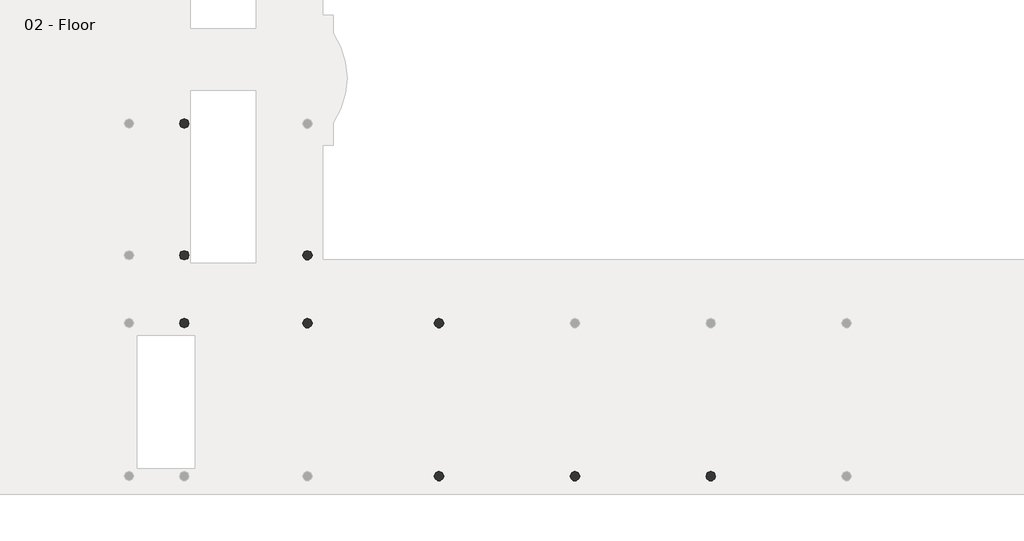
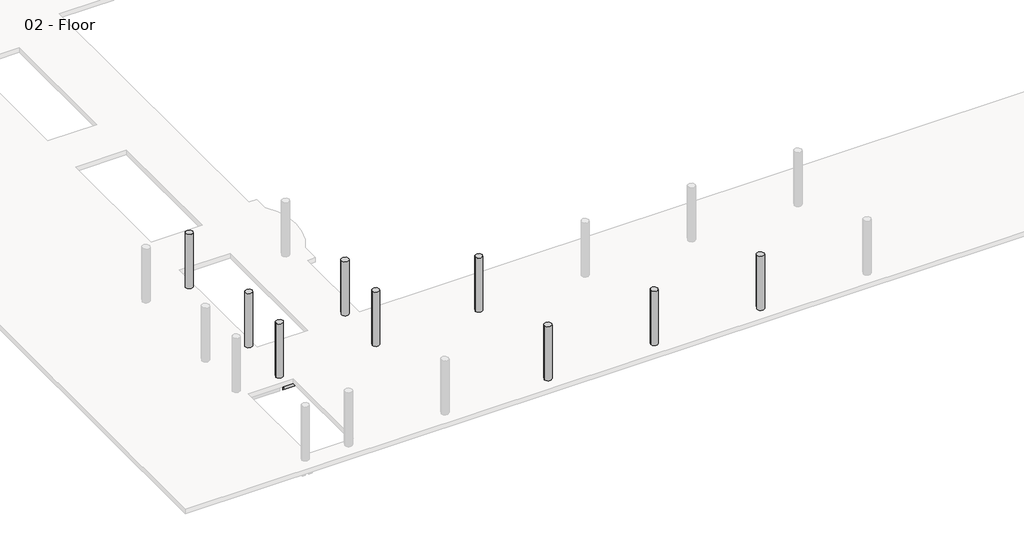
# One storey, part 3 of 9: 12 beams, 9 columns.
"""IFC4 building model written with IfcOpenShell, lengths in millimetres."""

from ifc_helpers import new_model, si_unit, point, frame, frame_2d, origin, place, context, project, spatial, polyline, circle_curve, trimmed, segment, composite_curve, outline, extrude, element, save
from ifc_brep_helpers import plane_surface, revolved_surface, advanced_brep

model = new_model("IFC4")

# Units and contexts
model_context = context("Model", 3, world=origin())
ifc_project = project(units=[si_unit("LENGTHUNIT", "METRE", prefix="MILLI")], contexts=[model_context])

# Site, building, storey
site = spatial("IfcSite", under=ifc_project)
building = spatial("IfcBuilding", under=site)
storey = spatial("IfcBuildingStorey", under=building, Name="02 - Floor", Elevation=3800.0)

# Beams
placement = place(None, origin())
element("IfcBeam", 1, ObjectType="M_Concrete-Rectangular Beam : 300 x 600mm", at=placement, inside=storey, context=model_context, shape_type="SweptSolid", body=[
    extrude(outline(composite_curve([segment(polyline([(12796.8005584, -12296.3611817), (13096.8005584, -12296.3611817), (13096.8005584, -15119.8613801), (13049.878199, -15119.8613801)]), True, "CONTINUOUS"), segment(trimmed(circle_curve(frame_2d((12946.8005584, -15319.8613801)), 225.0), [point((13049.878199, -15119.8613801))], [point((12843.7229178, -15119.8613801))], True, "CARTESIAN"), True, "CONTINUOUS"), segment(polyline([(12843.7229178, -15119.8613801), (12796.8005584, -15119.8613801), (12796.8005584, -12296.3611817)]), True, "CONTINUOUS")], self_intersect=False)), frame((0.0, 0.0, 3200.0), z_axis=(0.0, 0.0, 1.0), x_axis=(1.0, 0.0, 0.0)), (0.0, 0.0, 1.0), 300.0),
])
element("IfcBeam", 2, ObjectType="M_Concrete-Rectangular Beam : 400 x 800mm", at=placement, inside=storey, context=model_context, shape_type="AdvancedBrep", body=[
    advanced_brep(
    [(554.8005584, -11965.5837394, 3000.0), (554.8005584, -11965.5837394, 3500.0), (554.8005584, -11868.6613801, 3500.0), (554.8005584, -5969.4613801, 3500.0), (554.8005584, -5969.4613801, 3000.0), (554.8005584, -11868.6613801, 3000.0), (954.8005584, -5872.5390207, 3000.0), (954.8005584, -11965.5837394, 3000.0), (651.7229178, -5969.4613801, 3000.0), (954.8005584, -5872.5390207, 3500.0), (954.8005584, -11965.5837394, 3500.0), (651.7229178, -5969.4613801, 3500.0)],
    [
        (0, 1),
        (1, 2),
        (2, 3),
        (3, 4),
        (4, 5),
        (5, 0),
        (6, 7),
        (7, 0, circle_curve(frame((754.8005584, -12068.6613801, 3000.0), z_axis=(0.0, 0.0, 1.0), x_axis=(-1.0, 0.0, 0.0)), 225.0)),
        (4, 8),
        (8, 6, circle_curve(frame((754.8005584, -5769.4613801, 3000.0), z_axis=(0.0, 0.0, 1.0), x_axis=(-1.0, 0.0, 0.0)), 225.0)),
        (6, 9),
        (9, 10),
        (10, 7),
        (8, 11),
        (11, 9, circle_curve(frame((754.8005584, -5769.4613801, 3500.0), z_axis=(0.0, 0.0, 1.0), x_axis=(-1.0, 0.0, 0.0)), 225.0)),
        (10, 1, circle_curve(frame((754.8005584, -12068.6613801, 3500.0), z_axis=(0.0, 0.0, 1.0), x_axis=(-1.0, 0.0, 0.0)), 225.0)),
        (11, 3),
    ],
    [
        plane_surface(frame((554.8005584, -11830.9613801, 3400.0), z_axis=(-1.0, 0.0, 0.0), x_axis=(0.0, 0.0, -1.0))),
        plane_surface(frame((754.8005584, -11830.9613801, 3000.0), z_axis=(0.0, 0.0, -1.0), x_axis=(1.0, 0.0, 0.0))),
        plane_surface(frame((954.8005584, -11830.9613801, 3400.0), z_axis=(1.0, 0.0, 0.0), x_axis=(0.0, 0.0, 1.0))),
        revolved_surface(polyline([(529.8005584, -5769.4613801, 3500.0), (529.8005584, -5769.4613801, 3000.0)]), (754.8005584, -5769.4613801, 0.0), (0.0, 0.0, 1.0)),
        revolved_surface(polyline([(529.8005584, -12068.6613801, 3500.0), (529.8005584, -12068.6613801, 3000.0)]), (754.8005584, -12068.6613801, 0.0), (0.0, 0.0, 1.0)),
        plane_surface(frame((24268.8999097, 30514.0407562, 3500.0), z_axis=(0.0, 0.0, 1.0), x_axis=(0.0, -1.0, 0.0))),
        plane_surface(frame((-1649.0994416, -5969.4613801, 3400.0), z_axis=(0.0, 1.0, 0.0), x_axis=(0.0, 0.0, 1.0))),
    ],
    [
        (0, [[1, 2, 3, 4, 5, 6]]),
        (1, [[7, 8, -6, -5, 9, 10]]),
        (2, [[-7, 11, 12, 13]]),
        (3, [[-11, -10, 14, 15]]),
        (4, [[-8, -13, 16, -1]]),
        (5, [[-12, -15, 17, -3, -2, -16]]),
        (6, [[-4, -17, -14, -9]]),
    ],
),
])
element("IfcBeam", 3, ObjectType="M_Concrete-Rectangular Beam : 400 x 800mm", at=placement, inside=storey, context=model_context, shape_type="AdvancedBrep", body=[
    advanced_brep(
    [(554.8005584, -15216.7837394, 3000.0), (554.8005584, -15216.7837394, 3500.0), (554.8005584, -15119.8613801, 3500.0), (554.8005584, -12268.6613801, 3500.0), (554.8005584, -12268.6613801, 3000.0), (554.8005584, -15119.8613801, 3000.0), (954.8005584, -12171.7390207, 3000.0), (954.8005584, -15119.8613801, 3000.0), (954.8005584, -15216.7837394, 3000.0), (651.7229178, -12268.6613801, 3000.0), (954.8005584, -12171.7390207, 3500.0), (954.8005584, -15119.8613801, 3500.0), (954.8005584, -15216.7837394, 3500.0), (651.7229178, -12268.6613801, 3500.0)],
    [
        (0, 1),
        (1, 2),
        (2, 3),
        (3, 4),
        (4, 5),
        (5, 0),
        (6, 7),
        (7, 8),
        (8, 0, circle_curve(frame((754.8005584, -15319.8613801, 3000.0), z_axis=(0.0, 0.0, 1.0), x_axis=(-1.0, 0.0, 0.0)), 225.0)),
        (4, 9),
        (9, 6, circle_curve(frame((754.8005584, -12068.6613801, 3000.0), z_axis=(0.0, 0.0, 1.0), x_axis=(-1.0, 0.0, 0.0)), 225.0)),
        (6, 10),
        (10, 11),
        (11, 12),
        (12, 8),
        (9, 13),
        (13, 10, circle_curve(frame((754.8005584, -12068.6613801, 3500.0), z_axis=(0.0, 0.0, 1.0), x_axis=(-1.0, 0.0, 0.0)), 225.0)),
        (12, 1, circle_curve(frame((754.8005584, -15319.8613801, 3500.0), z_axis=(0.0, 0.0, 1.0), x_axis=(-1.0, 0.0, 0.0)), 225.0)),
        (13, 3),
    ],
    [
        plane_surface(frame((554.8005584, -15082.1613801, 3400.0), z_axis=(-1.0, 0.0, 0.0), x_axis=(0.0, 0.0, -1.0))),
        plane_surface(frame((754.8005584, -15082.1613801, 3000.0), z_axis=(0.0, 0.0, -1.0), x_axis=(1.0, 0.0, 0.0))),
        plane_surface(frame((954.8005584, -15082.1613801, 3400.0), z_axis=(1.0, 0.0, 0.0), x_axis=(0.0, 0.0, 1.0))),
        revolved_surface(polyline([(529.8005584, -12068.6613801, 3500.0), (529.8005584, -12068.6613801, 3000.0)]), (754.8005584, -12068.6613801, 0.0), (0.0, 0.0, 1.0)),
        revolved_surface(polyline([(529.8005584, -15319.8613801, 3500.0), (529.8005584, -15319.8613801, 3000.0)]), (754.8005584, -15319.8613801, 0.0), (0.0, 0.0, 1.0)),
        plane_surface(frame((24268.8999097, 30514.0407562, 3500.0), z_axis=(0.0, 0.0, 1.0), x_axis=(0.0, -1.0, 0.0))),
        plane_surface(frame((-1649.0994416, -12268.6613801, 3400.0), z_axis=(0.0, 1.0, 0.0), x_axis=(0.0, 0.0, 1.0))),
    ],
    [
        (0, [[1, 2, 3, 4, 5, 6]]),
        (1, [[7, 8, 9, -6, -5, 10, 11]]),
        (2, [[-8, -7, 12, 13, 14, 15]]),
        (3, [[-12, -11, 16, 17]]),
        (4, [[-9, -15, 18, -1]]),
        (5, [[-14, -13, -17, 19, -3, -2, -18]]),
        (6, [[-4, -19, -16, -10]]),
    ],
),
])
element("IfcBeam", 4, ObjectType="M_Concrete-Rectangular Beam : 400 x 800mm", at=placement, inside=storey, context=model_context, shape_type="SweptSolid", body=[
    extrude(outline(composite_curve([segment(trimmed(circle_curve(frame_2d((6647.6005584, -5769.4613801)), 225.0), [point((6447.6005584, -5872.5390207))], [point((6847.6005584, -5872.5390207))], True, "CARTESIAN"), True, "CONTINUOUS"), segment(polyline([(6847.6005584, -5872.5390207), (6847.6005584, -11965.5837394)]), True, "CONTINUOUS"), segment(trimmed(circle_curve(frame_2d((6647.6005584, -12068.6613801)), 225.0), [point((6847.6005584, -11965.5837394))], [point((6447.6005584, -11965.5837394))], True, "CARTESIAN"), True, "CONTINUOUS"), segment(polyline([(6447.6005584, -11965.5837394), (6447.6005584, -5872.5390207)]), True, "CONTINUOUS")], self_intersect=False)), frame((0.0, 0.0, 3000.0), z_axis=(0.0, 0.0, 1.0), x_axis=(1.0, 0.0, 0.0)), (0.0, 0.0, 1.0), 500.0),
])
element("IfcBeam", 5, ObjectType="M_Concrete-Rectangular Beam : 400 x 800mm", at=placement, inside=storey, context=model_context, shape_type="AdvancedBrep", body=[
    advanced_brep(
    [(6447.6005584, -12171.7390207, 3000.0), (6447.6005584, -15119.8613801, 3000.0), (6447.6005584, -15216.7837394, 3000.0), (6447.6005584, -15216.7837394, 3500.0), (6447.6005584, -15119.8613801, 3500.0), (6447.6005584, -12171.7390207, 3500.0), (6847.6005584, -12171.7390207, 3000.0), (6847.6005584, -15119.8613801, 3000.0), (6847.6005584, -15216.7837394, 3000.0), (6847.6005584, -12171.7390207, 3500.0), (6847.6005584, -15119.8613801, 3500.0), (6847.6005584, -15216.7837394, 3500.0)],
    [
        (0, 1),
        (1, 2),
        (2, 3),
        (3, 4),
        (4, 5),
        (5, 0),
        (0, 6, circle_curve(frame((6647.6005584, -12068.6613801, 3000.0), z_axis=(0.0, 0.0, 1.0), x_axis=(-1.0, 0.0, 0.0)), 225.0)),
        (6, 7),
        (7, 8),
        (8, 2, circle_curve(frame((6647.6005584, -15319.8613801, 3000.0), z_axis=(0.0, 0.0, 1.0), x_axis=(-1.0, 0.0, 0.0)), 225.0)),
        (6, 9),
        (9, 10),
        (10, 11),
        (11, 8),
        (5, 9, circle_curve(frame((6647.6005584, -12068.6613801, 3500.0), z_axis=(0.0, 0.0, 1.0), x_axis=(-1.0, 0.0, 0.0)), 225.0)),
        (11, 3, circle_curve(frame((6647.6005584, -15319.8613801, 3500.0), z_axis=(0.0, 0.0, 1.0), x_axis=(-1.0, 0.0, 0.0)), 225.0)),
    ],
    [
        plane_surface(frame((6447.6005584, -15082.1613801, 3400.0), z_axis=(-1.0, 0.0, 0.0), x_axis=(0.0, 0.0, -1.0))),
        plane_surface(frame((6647.6005584, -15082.1613801, 3000.0), z_axis=(0.0, 0.0, -1.0), x_axis=(1.0, 0.0, 0.0))),
        plane_surface(frame((6847.6005584, -15082.1613801, 3400.0), z_axis=(1.0, 0.0, 0.0), x_axis=(0.0, 0.0, 1.0))),
        revolved_surface(polyline([(6422.6005584, -12068.6613801, 3500.0), (6422.6005584, -12068.6613801, 3000.0)]), (6647.6005584, -12068.6613801, 0.0), (0.0, 0.0, 1.0)),
        revolved_surface(polyline([(6422.6005584, -15319.8613801, 3500.0), (6422.6005584, -15319.8613801, 3000.0)]), (6647.6005584, -15319.8613801, 0.0), (0.0, 0.0, 1.0)),
        plane_surface(frame((24268.8999097, 30514.0407562, 3500.0), z_axis=(0.0, 0.0, 1.0), x_axis=(0.0, -1.0, 0.0))),
    ],
    [
        (0, [[1, 2, 3, 4, 5, 6]]),
        (1, [[7, 8, 9, 10, -2, -1]]),
        (2, [[-9, -8, 11, 12, 13, 14]]),
        (3, [[-7, -6, 15, -11]]),
        (4, [[-10, -14, 16, -3]]),
        (5, [[-5, -4, -16, -13, -12, -15]]),
    ],
),
])
element("IfcBeam", 6, ObjectType="M_Concrete-Rectangular Beam : 400 x 800mm", at=placement, inside=storey, context=model_context, shape_type="AdvancedBrep", body=[
    advanced_brep(
    [(6447.6005584, -15422.9390207, 3000.0), (6447.6005584, -15519.8613801, 3000.0), (6447.6005584, -22435.0613801, 3000.0), (6447.6005584, -22531.9837394, 3000.0), (6447.6005584, -22531.9837394, 3500.0), (6447.6005584, -22435.0613801, 3500.0), (6447.6005584, -15519.8613801, 3500.0), (6447.6005584, -15422.9390207, 3500.0), (6750.678199, -15519.8613801, 3000.0), (6847.6005584, -15519.8613801, 3000.0), (6847.6005584, -22435.0613801, 3000.0), (6847.6005584, -22531.9837394, 3000.0), (6847.6005584, -15519.8613801, 3500.0), (6847.6005584, -22435.0613801, 3500.0), (6847.6005584, -22531.9837394, 3500.0), (6750.678199, -15519.8613801, 3500.0)],
    [
        (0, 1),
        (1, 2),
        (2, 3),
        (3, 4),
        (4, 5),
        (5, 6),
        (6, 7),
        (7, 0),
        (0, 8, circle_curve(frame((6647.6005584, -15319.8613801, 3000.0), z_axis=(0.0, 0.0, 1.0), x_axis=(-1.0, 0.0, 0.0)), 225.0)),
        (8, 9),
        (9, 10),
        (10, 11),
        (11, 3, circle_curve(frame((6647.6005584, -22635.0613801, 3000.0), z_axis=(0.0, 0.0, 1.0), x_axis=(-1.0, 0.0, 0.0)), 225.0)),
        (9, 12),
        (12, 13),
        (13, 14),
        (14, 11),
        (7, 15, circle_curve(frame((6647.6005584, -15319.8613801, 3500.0), z_axis=(0.0, 0.0, 1.0), x_axis=(-1.0, 0.0, 0.0)), 225.0)),
        (15, 8),
        (15, 12),
        (14, 4, circle_curve(frame((6647.6005584, -22635.0613801, 3500.0), z_axis=(0.0, 0.0, 1.0), x_axis=(-1.0, 0.0, 0.0)), 225.0)),
    ],
    [
        plane_surface(frame((6447.6005584, -22397.3613801, 3800.0), z_axis=(-1.0, 0.0, 0.0), x_axis=(0.0, 1.0, 0.0))),
        plane_surface(frame((6447.6005584, -22397.3613801, 3000.0), z_axis=(0.0, 0.0, -1.0), x_axis=(0.0, 1.0, 0.0))),
        plane_surface(frame((6847.6005584, -22397.3613801, 3000.0), z_axis=(1.0, 0.0, 0.0), x_axis=(0.0, 1.0, 0.0))),
        revolved_surface(polyline([(6422.6005584, -15319.8613801, 3500.0), (6422.6005584, -15319.8613801, 3000.0)]), (6647.6005584, -15319.8613801, 0.0), (0.0, 0.0, 1.0)),
        plane_surface(frame((6885.3005584, -15519.8613801, 3400.0), z_axis=(0.0, 1.0, 0.0), x_axis=(0.0, 0.0, 1.0))),
        revolved_surface(polyline([(6422.6005584, -22635.0613801, 3500.0), (6422.6005584, -22635.0613801, 3000.0)]), (6647.6005584, -22635.0613801, 0.0), (0.0, 0.0, 1.0)),
        plane_surface(frame((24268.8999097, 30514.0407562, 3500.0), z_axis=(0.0, 0.0, 1.0), x_axis=(0.0, -1.0, 0.0))),
    ],
    [
        (0, [[1, 2, 3, 4, 5, 6, 7, 8]]),
        (1, [[9, 10, 11, 12, 13, -3, -2, -1]]),
        (2, [[-12, -11, 14, 15, 16, 17]]),
        (3, [[-9, -8, 18, 19]]),
        (4, [[-10, -19, 20, -14]]),
        (5, [[-13, -17, 21, -4]]),
        (6, [[-7, -6, -5, -21, -16, -15, -20, -18]]),
    ],
),
])
element("IfcBeam", 7, ObjectType="M_Concrete-Rectangular Beam : 400 x 800mm", at=placement, inside=storey, context=model_context, shape_type="AdvancedBrep", body=[
    advanced_brep(
    [(12843.7229178, -15119.8613801, 3000.0), (6847.6005584, -15119.8613801, 3000.0), (6847.6005584, -15119.8613801, 3500.0), (12796.8005584, -15119.8613801, 3500.0), (12843.7229178, -15119.8613801, 3500.0), (12843.7229178, -15119.8613801, 3200.0), (6847.6005584, -15216.7837394, 3000.0), (12721.8005584, -15319.8613801, 3000.0), (12843.7229178, -15519.8613801, 3000.0), (6847.6005584, -15519.8613801, 3000.0), (6750.678199, -15519.8613801, 3000.0), (6872.6005584, -15319.8613801, 3000.0), (12843.7229178, -15519.8613801, 3200.0), (12796.8005584, -15519.8613801, 3200.0), (12796.8005584, -15519.8613801, 3500.0), (6847.6005584, -15519.8613801, 3500.0), (6750.678199, -15519.8613801, 3500.0), (6847.6005584, -15216.7837394, 3500.0), (6872.6005584, -15319.8613801, 3500.0), (12796.8005584, -15487.5664784, 3200.0), (12796.8005584, -15487.5664784, 3500.0), (12721.8005584, -15319.8613801, 3500.0)],
    [
        (0, 1),
        (1, 2),
        (2, 3),
        (3, 4),
        (4, 5),
        (5, 0),
        (6, 1),
        (0, 7, circle_curve(frame((12946.8005584, -15319.8613801, 3000.0), z_axis=(0.0, 0.0, 1.0), x_axis=(-1.0, 0.0, 0.0)), 225.0)),
        (7, 8, circle_curve(frame((12946.8005584, -15319.8613801, 3000.0), z_axis=(0.0, 0.0, 1.0), x_axis=(-1.0, 0.0, 0.0)), 225.0)),
        (8, 9),
        (9, 10),
        (10, 11, circle_curve(frame((6647.6005584, -15319.8613801, 3000.0), z_axis=(0.0, 0.0, 1.0), x_axis=(-1.0, 0.0, 0.0)), 225.0)),
        (11, 6, circle_curve(frame((6647.6005584, -15319.8613801, 3000.0), z_axis=(0.0, 0.0, 1.0), x_axis=(-1.0, 0.0, 0.0)), 225.0)),
        (8, 12),
        (12, 13),
        (13, 14),
        (14, 15),
        (15, 16),
        (16, 10),
        (6, 17),
        (17, 2),
        (16, 18, circle_curve(frame((6647.6005584, -15319.8613801, 3500.0), z_axis=(0.0, 0.0, 1.0), x_axis=(-1.0, 0.0, 0.0)), 225.0)),
        (18, 11),
        (18, 17, circle_curve(frame((6647.6005584, -15319.8613801, 3500.0), z_axis=(0.0, 0.0, 1.0), x_axis=(-1.0, 0.0, 0.0)), 225.0)),
        (13, 19),
        (19, 20),
        (20, 14),
        (12, 19, circle_curve(frame((12946.8005584, -15319.8613801, 3200.0), z_axis=(0.0, 0.0, -1.0), x_axis=(-1.0, 0.0, 0.0)), 225.0)),
        (7, 21),
        (21, 20, circle_curve(frame((12946.8005584, -15319.8613801, 3500.0), z_axis=(0.0, 0.0, 1.0), x_axis=(-1.0, 0.0, 0.0)), 225.0)),
        (4, 21, circle_curve(frame((12946.8005584, -15319.8613801, 3500.0), z_axis=(0.0, 0.0, 1.0), x_axis=(-1.0, 0.0, 0.0)), 225.0)),
    ],
    [
        plane_surface(frame((6885.3005584, -15119.8613801, 3400.0), z_axis=(0.0, 1.0, 0.0), x_axis=(0.0, 0.0, -1.0))),
        plane_surface(frame((6885.3005584, -15319.8613801, 3000.0), z_axis=(0.0, 0.0, -1.0), x_axis=(0.0, -1.0, 0.0))),
        plane_surface(frame((6885.3005584, -15519.8613801, 3400.0), z_axis=(0.0, -1.0, 0.0), x_axis=(0.0, 0.0, 1.0))),
        plane_surface(frame((6847.6005584, -15082.1613801, 3400.0), z_axis=(-1.0, 0.0, 0.0), x_axis=(0.0, 0.0, 1.0))),
        revolved_surface(polyline([(6422.6005584, -15319.8613801, 3500.0), (6422.6005584, -15319.8613801, 3000.0)]), (6647.6005584, -15319.8613801, 0.0), (0.0, 0.0, 1.0)),
        plane_surface(frame((12796.8005584, -22397.3613801, 3800.0), z_axis=(1.0, 0.0, 0.0), x_axis=(0.0, 1.0, 0.0))),
        plane_surface(frame((12796.8005584, -22397.3613801, 3200.0), z_axis=(0.0, 0.0, 1.0), x_axis=(0.0, 1.0, 0.0))),
        revolved_surface(polyline([(12721.8005584, -15319.8613801, 3500.0), (12721.8005584, -15319.8613801, 3000.0)]), (12946.8005584, -15319.8613801, 0.0), (0.0, 0.0, 1.0)),
        plane_surface(frame((24268.8999097, 30514.0407562, 3500.0), z_axis=(0.0, 0.0, 1.0), x_axis=(0.0, -1.0, 0.0))),
    ],
    [
        (0, [[1, 2, 3, 4, 5, 6]]),
        (1, [[7, -1, 8, 9, 10, 11, 12, 13]]),
        (2, [[-11, -10, 14, 15, 16, 17, 18, 19]]),
        (3, [[-7, 20, 21, -2]]),
        (4, [[-12, -19, 22, 23]]),
        (4, [[-13, -23, 24, -20]]),
        (5, [[25, 26, 27, -16]]),
        (6, [[-15, 28, -25]]),
        (7, [[-9, 29, 30, -26, -28, -14]]),
        (7, [[-8, -6, -5, 31, -29]]),
        (8, [[-4, -3, -21, -24, -22, -18, -17, -27, -30, -31]]),
    ],
),
])
element("IfcBeam", 8, ObjectType="M_Concrete-Rectangular Beam : 400 x 800mm", at=placement, inside=storey, context=model_context, shape_type="SweptSolid", body=[
    extrude(outline(composite_curve([segment(polyline([(954.8005584, -15216.7837394), (954.8005584, -15119.8613801), (6447.6005584, -15119.8613801), (6447.6005584, -15216.7837394)]), True, "CONTINUOUS"), segment(trimmed(circle_curve(frame_2d((6647.6005584, -15319.8613801)), 225.0), [point((6447.6005584, -15216.7837394))], [point((6422.6005584, -15319.8613801))], True, "CARTESIAN"), True, "CONTINUOUS"), segment(trimmed(circle_curve(frame_2d((6647.6005584, -15319.8613801)), 225.0), [point((6422.6005584, -15319.8613801))], [point((6447.6005584, -15422.9390207))], True, "CARTESIAN"), True, "CONTINUOUS"), segment(polyline([(6447.6005584, -15422.9390207), (6447.6005584, -15519.8613801), (857.878199, -15519.8613801)]), True, "CONTINUOUS"), segment(trimmed(circle_curve(frame_2d((754.8005584, -15319.8613801)), 225.0), [point((857.878199, -15519.8613801))], [point((979.8005584, -15319.8613801))], True, "CARTESIAN"), True, "CONTINUOUS"), segment(trimmed(circle_curve(frame_2d((754.8005584, -15319.8613801)), 225.0), [point((979.8005584, -15319.8613801))], [point((954.8005584, -15216.7837394))], True, "CARTESIAN"), True, "CONTINUOUS")], self_intersect=False)), frame((0.0, 0.0, 3000.0), z_axis=(0.0, 0.0, 1.0), x_axis=(1.0, 0.0, 0.0)), (0.0, 0.0, 1.0), 500.0),
])
element("IfcBeam", 9, ObjectType="M_Concrete-Rectangular Beam : 400 x 800mm", at=placement, inside=storey, context=model_context, shape_type="AdvancedBrep", body=[
    advanced_brep(
    [(32304.0005584, -22435.0613801, 3200.0), (32350.9229178, -22435.0613801, 3200.0), (32350.9229178, -22435.0613801, 3000.0), (26054.678199, -22435.0613801, 3000.0), (26054.678199, -22435.0613801, 3200.0), (26054.678199, -22435.0613801, 3500.0), (26101.6005584, -22435.0613801, 3500.0), (32304.0005584, -22435.0613801, 3500.0), (26176.6005584, -22635.0613801, 3000.0), (32229.0005584, -22635.0613801, 3000.0), (32350.9229178, -22835.0613801, 3000.0), (26054.678199, -22835.0613801, 3000.0), (32350.9229178, -22835.0613801, 3500.0), (26054.678199, -22835.0613801, 3500.0), (26176.6005584, -22635.0613801, 3500.0), (32304.0005584, -22467.3562817, 3200.0), (32304.0005584, -22467.3562817, 3500.0), (32229.0005584, -22635.0613801, 3500.0)],
    [
        (0, 1),
        (1, 2),
        (2, 3),
        (3, 4),
        (4, 5),
        (5, 6),
        (6, 7),
        (7, 0),
        (8, 3, circle_curve(frame((25951.6005584, -22635.0613801, 3000.0), z_axis=(0.0, 0.0, 1.0), x_axis=(-1.0, 0.0, 0.0)), 225.0)),
        (2, 9, circle_curve(frame((32454.0005584, -22635.0613801, 3000.0), z_axis=(0.0, 0.0, 1.0), x_axis=(-1.0, 0.0, 0.0)), 225.0)),
        (9, 10, circle_curve(frame((32454.0005584, -22635.0613801, 3000.0), z_axis=(0.0, 0.0, 1.0), x_axis=(-1.0, 0.0, 0.0)), 225.0)),
        (10, 11),
        (11, 8, circle_curve(frame((25951.6005584, -22635.0613801, 3000.0), z_axis=(0.0, 0.0, 1.0), x_axis=(-1.0, 0.0, 0.0)), 225.0)),
        (10, 12),
        (12, 13),
        (13, 11),
        (13, 14, circle_curve(frame((25951.6005584, -22635.0613801, 3500.0), z_axis=(0.0, 0.0, 1.0), x_axis=(-1.0, 0.0, 0.0)), 225.0)),
        (14, 8),
        (14, 5, circle_curve(frame((25951.6005584, -22635.0613801, 3500.0), z_axis=(0.0, 0.0, 1.0), x_axis=(-1.0, 0.0, 0.0)), 225.0)),
        (15, 0),
        (7, 16),
        (16, 15),
        (15, 1, circle_curve(frame((32454.0005584, -22635.0613801, 3200.0), z_axis=(0.0, 0.0, -1.0), x_axis=(-1.0, 0.0, 0.0)), 225.0)),
        (9, 17),
        (17, 12, circle_curve(frame((32454.0005584, -22635.0613801, 3500.0), z_axis=(0.0, 0.0, 1.0), x_axis=(-1.0, 0.0, 0.0)), 225.0)),
        (16, 17, circle_curve(frame((32454.0005584, -22635.0613801, 3500.0), z_axis=(0.0, 0.0, 1.0), x_axis=(-1.0, 0.0, 0.0)), 225.0)),
    ],
    [
        plane_surface(frame((26189.3005584, -22435.0613801, 3400.0), z_axis=(0.0, 1.0, 0.0), x_axis=(0.0, 0.0, -1.0))),
        plane_surface(frame((26189.3005584, -22635.0613801, 3000.0), z_axis=(0.0, 0.0, -1.0), x_axis=(0.0, -1.0, 0.0))),
        plane_surface(frame((26189.3005584, -22835.0613801, 3400.0), z_axis=(0.0, -1.0, 0.0), x_axis=(0.0, 0.0, 1.0))),
        revolved_surface(polyline([(25726.6005584, -22635.0613801, 3500.0), (25726.6005584, -22635.0613801, 3000.0)]), (25951.6005584, -22635.0613801, 0.0), (0.0, 0.0, 1.0)),
        plane_surface(frame((32304.0005584, -22397.3613801, 3800.0), z_axis=(1.0, 0.0, 0.0), x_axis=(0.0, 1.0, 0.0))),
        plane_surface(frame((32304.0005584, -22397.3613801, 3200.0), z_axis=(0.0, 0.0, 1.0), x_axis=(0.0, 1.0, 0.0))),
        revolved_surface(polyline([(32229.0005584, -22635.0613801, 3500.0), (32229.0005584, -22635.0613801, 3000.0)]), (32454.0005584, -22635.0613801, 0.0), (0.0, 0.0, 1.0)),
        plane_surface(frame((24268.8999097, 30514.0407562, 3500.0), z_axis=(0.0, 0.0, 1.0), x_axis=(0.0, -1.0, 0.0))),
    ],
    [
        (0, [[1, 2, 3, 4, 5, 6, 7, 8]]),
        (1, [[9, -3, 10, 11, 12, 13]]),
        (2, [[-12, 14, 15, 16]]),
        (3, [[-13, -16, 17, 18]]),
        (3, [[-9, -18, 19, -5, -4]]),
        (4, [[20, -8, 21, 22]]),
        (5, [[-1, -20, 23]]),
        (6, [[-11, 24, 25, -14]]),
        (6, [[-2, -23, -22, 26, -24, -10]]),
        (7, [[-7, -6, -19, -17, -15, -25, -26, -21]]),
    ],
),
])
element("IfcBeam", 10, ObjectType="M_Concrete-Rectangular Beam : 400 x 800mm", at=placement, inside=storey, context=model_context, shape_type="AdvancedBrep", body=[
    advanced_brep(
    [(25801.6005584, -22435.0613801, 3200.0), (25848.5229178, -22435.0613801, 3200.0), (25848.5229178, -22435.0613801, 3000.0), (19552.278199, -22435.0613801, 3000.0), (19552.278199, -22435.0613801, 3200.0), (19552.278199, -22435.0613801, 3500.0), (19599.2005584, -22435.0613801, 3500.0), (25801.6005584, -22435.0613801, 3500.0), (19674.2005584, -22635.0613801, 3000.0), (25726.6005584, -22635.0613801, 3000.0), (25848.5229178, -22835.0613801, 3000.0), (19552.278199, -22835.0613801, 3000.0), (25848.5229178, -22835.0613801, 3500.0), (19552.278199, -22835.0613801, 3500.0), (19674.2005584, -22635.0613801, 3500.0), (25801.6005584, -22467.3562817, 3200.0), (25801.6005584, -22467.3562817, 3500.0), (25726.6005584, -22635.0613801, 3500.0)],
    [
        (0, 1),
        (1, 2),
        (2, 3),
        (3, 4),
        (4, 5),
        (5, 6),
        (6, 7),
        (7, 0),
        (8, 3, circle_curve(frame((19449.2005584, -22635.0613801, 3000.0), z_axis=(0.0, 0.0, 1.0), x_axis=(-1.0, 0.0, 0.0)), 225.0)),
        (2, 9, circle_curve(frame((25951.6005584, -22635.0613801, 3000.0), z_axis=(0.0, 0.0, 1.0), x_axis=(-1.0, 0.0, 0.0)), 225.0)),
        (9, 10, circle_curve(frame((25951.6005584, -22635.0613801, 3000.0), z_axis=(0.0, 0.0, 1.0), x_axis=(-1.0, 0.0, 0.0)), 225.0)),
        (10, 11),
        (11, 8, circle_curve(frame((19449.2005584, -22635.0613801, 3000.0), z_axis=(0.0, 0.0, 1.0), x_axis=(-1.0, 0.0, 0.0)), 225.0)),
        (10, 12),
        (12, 13),
        (13, 11),
        (13, 14, circle_curve(frame((19449.2005584, -22635.0613801, 3500.0), z_axis=(0.0, 0.0, 1.0), x_axis=(-1.0, 0.0, 0.0)), 225.0)),
        (14, 8),
        (14, 5, circle_curve(frame((19449.2005584, -22635.0613801, 3500.0), z_axis=(0.0, 0.0, 1.0), x_axis=(-1.0, 0.0, 0.0)), 225.0)),
        (15, 0),
        (7, 16),
        (16, 15),
        (15, 1, circle_curve(frame((25951.6005584, -22635.0613801, 3200.0), z_axis=(0.0, 0.0, -1.0), x_axis=(-1.0, 0.0, 0.0)), 225.0)),
        (9, 17),
        (17, 12, circle_curve(frame((25951.6005584, -22635.0613801, 3500.0), z_axis=(0.0, 0.0, 1.0), x_axis=(-1.0, 0.0, 0.0)), 225.0)),
        (16, 17, circle_curve(frame((25951.6005584, -22635.0613801, 3500.0), z_axis=(0.0, 0.0, 1.0), x_axis=(-1.0, 0.0, 0.0)), 225.0)),
    ],
    [
        plane_surface(frame((19686.9005584, -22435.0613801, 3400.0), z_axis=(0.0, 1.0, 0.0), x_axis=(0.0, 0.0, -1.0))),
        plane_surface(frame((19686.9005584, -22635.0613801, 3000.0), z_axis=(0.0, 0.0, -1.0), x_axis=(0.0, -1.0, 0.0))),
        plane_surface(frame((19686.9005584, -22835.0613801, 3400.0), z_axis=(0.0, -1.0, 0.0), x_axis=(0.0, 0.0, 1.0))),
        revolved_surface(polyline([(19224.2005584, -22635.0613801, 3500.0), (19224.2005584, -22635.0613801, 3000.0)]), (19449.2005584, -22635.0613801, 0.0), (0.0, 0.0, 1.0)),
        plane_surface(frame((25801.6005584, -22397.3613801, 3800.0), z_axis=(1.0, 0.0, 0.0), x_axis=(0.0, 1.0, 0.0))),
        plane_surface(frame((25801.6005584, -22397.3613801, 3200.0), z_axis=(0.0, 0.0, 1.0), x_axis=(0.0, 1.0, 0.0))),
        revolved_surface(polyline([(25726.6005584, -22635.0613801, 3500.0), (25726.6005584, -22635.0613801, 3000.0)]), (25951.6005584, -22635.0613801, 0.0), (0.0, 0.0, 1.0)),
        plane_surface(frame((24268.8999097, 30514.0407562, 3500.0), z_axis=(0.0, 0.0, 1.0), x_axis=(0.0, -1.0, 0.0))),
    ],
    [
        (0, [[1, 2, 3, 4, 5, 6, 7, 8]]),
        (1, [[9, -3, 10, 11, 12, 13]]),
        (2, [[-12, 14, 15, 16]]),
        (3, [[-13, -16, 17, 18]]),
        (3, [[-9, -18, 19, -5, -4]]),
        (4, [[20, -8, 21, 22]]),
        (5, [[-1, -20, 23]]),
        (6, [[-11, 24, 25, -14]]),
        (6, [[-2, -23, -22, 26, -24, -10]]),
        (7, [[-7, -6, -19, -17, -15, -25, -26, -21]]),
    ],
),
])
element("IfcBeam", 11, ObjectType="M_Concrete-Rectangular Beam : 400 x 800mm", at=placement, inside=storey, context=model_context, shape_type="AdvancedBrep", body=[
    advanced_brep(
    [(19299.2005584, -22435.0613801, 3200.0), (19346.1229178, -22435.0613801, 3200.0), (19346.1229178, -22435.0613801, 3000.0), (13049.878199, -22435.0613801, 3000.0), (13049.878199, -22435.0613801, 3200.0), (13049.878199, -22435.0613801, 3500.0), (13096.8005584, -22435.0613801, 3500.0), (19299.2005584, -22435.0613801, 3500.0), (13171.8005584, -22635.0613801, 3000.0), (19224.2005584, -22635.0613801, 3000.0), (19346.1229178, -22835.0613801, 3000.0), (13049.878199, -22835.0613801, 3000.0), (19346.1229178, -22835.0613801, 3500.0), (13049.878199, -22835.0613801, 3500.0), (13171.8005584, -22635.0613801, 3500.0), (19299.2005584, -22467.3562817, 3200.0), (19299.2005584, -22467.3562817, 3500.0), (19224.2005584, -22635.0613801, 3500.0)],
    [
        (0, 1),
        (1, 2),
        (2, 3),
        (3, 4),
        (4, 5),
        (5, 6),
        (6, 7),
        (7, 0),
        (8, 3, circle_curve(frame((12946.8005584, -22635.0613801, 3000.0), z_axis=(0.0, 0.0, 1.0), x_axis=(-1.0, 0.0, 0.0)), 225.0)),
        (2, 9, circle_curve(frame((19449.2005584, -22635.0613801, 3000.0), z_axis=(0.0, 0.0, 1.0), x_axis=(-1.0, 0.0, 0.0)), 225.0)),
        (9, 10, circle_curve(frame((19449.2005584, -22635.0613801, 3000.0), z_axis=(0.0, 0.0, 1.0), x_axis=(-1.0, 0.0, 0.0)), 225.0)),
        (10, 11),
        (11, 8, circle_curve(frame((12946.8005584, -22635.0613801, 3000.0), z_axis=(0.0, 0.0, 1.0), x_axis=(-1.0, 0.0, 0.0)), 225.0)),
        (10, 12),
        (12, 13),
        (13, 11),
        (13, 14, circle_curve(frame((12946.8005584, -22635.0613801, 3500.0), z_axis=(0.0, 0.0, 1.0), x_axis=(-1.0, 0.0, 0.0)), 225.0)),
        (14, 8),
        (14, 5, circle_curve(frame((12946.8005584, -22635.0613801, 3500.0), z_axis=(0.0, 0.0, 1.0), x_axis=(-1.0, 0.0, 0.0)), 225.0)),
        (15, 0),
        (7, 16),
        (16, 15),
        (15, 1, circle_curve(frame((19449.2005584, -22635.0613801, 3200.0), z_axis=(0.0, 0.0, -1.0), x_axis=(-1.0, 0.0, 0.0)), 225.0)),
        (9, 17),
        (17, 12, circle_curve(frame((19449.2005584, -22635.0613801, 3500.0), z_axis=(0.0, 0.0, 1.0), x_axis=(-1.0, 0.0, 0.0)), 225.0)),
        (16, 17, circle_curve(frame((19449.2005584, -22635.0613801, 3500.0), z_axis=(0.0, 0.0, 1.0), x_axis=(-1.0, 0.0, 0.0)), 225.0)),
    ],
    [
        plane_surface(frame((13184.5005584, -22435.0613801, 3400.0), z_axis=(0.0, 1.0, 0.0), x_axis=(0.0, 0.0, -1.0))),
        plane_surface(frame((13184.5005584, -22635.0613801, 3000.0), z_axis=(0.0, 0.0, -1.0), x_axis=(0.0, -1.0, 0.0))),
        plane_surface(frame((13184.5005584, -22835.0613801, 3400.0), z_axis=(0.0, -1.0, 0.0), x_axis=(0.0, 0.0, 1.0))),
        revolved_surface(polyline([(12721.8005584, -22635.0613801, 3500.0), (12721.8005584, -22635.0613801, 3000.0)]), (12946.8005584, -22635.0613801, 0.0), (0.0, 0.0, 1.0)),
        plane_surface(frame((19299.2005584, -22397.3613801, 3800.0), z_axis=(1.0, 0.0, 0.0), x_axis=(0.0, 1.0, 0.0))),
        plane_surface(frame((19299.2005584, -22397.3613801, 3200.0), z_axis=(0.0, 0.0, 1.0), x_axis=(0.0, 1.0, 0.0))),
        revolved_surface(polyline([(19224.2005584, -22635.0613801, 3500.0), (19224.2005584, -22635.0613801, 3000.0)]), (19449.2005584, -22635.0613801, 0.0), (0.0, 0.0, 1.0)),
        plane_surface(frame((24268.8999097, 30514.0407562, 3500.0), z_axis=(0.0, 0.0, 1.0), x_axis=(0.0, -1.0, 0.0))),
    ],
    [
        (0, [[1, 2, 3, 4, 5, 6, 7, 8]]),
        (1, [[9, -3, 10, 11, 12, 13]]),
        (2, [[-12, 14, 15, 16]]),
        (3, [[-13, -16, 17, 18]]),
        (3, [[-9, -18, 19, -5, -4]]),
        (4, [[20, -8, 21, 22]]),
        (5, [[-1, -20, 23]]),
        (6, [[-11, 24, 25, -14]]),
        (6, [[-2, -23, -22, 26, -24, -10]]),
        (7, [[-7, -6, -19, -17, -15, -25, -26, -21]]),
    ],
),
])
element("IfcBeam", 12, ObjectType="M_Concrete-Rectangular Beam : 400 x 800mm", at=placement, inside=storey, context=model_context, shape_type="AdvancedBrep", body=[
    advanced_brep(
    [(12796.8005584, -22435.0613801, 3200.0), (12843.7229178, -22435.0613801, 3200.0), (12843.7229178, -22435.0613801, 3000.0), (6847.6005584, -22435.0613801, 3000.0), (6847.6005584, -22435.0613801, 3500.0), (12796.8005584, -22435.0613801, 3500.0), (6847.6005584, -22531.9837394, 3000.0), (12721.8005584, -22635.0613801, 3000.0), (12843.7229178, -22835.0613801, 3000.0), (6750.678199, -22835.0613801, 3000.0), (6872.6005584, -22635.0613801, 3000.0), (12843.7229178, -22835.0613801, 3500.0), (6750.678199, -22835.0613801, 3500.0), (6847.6005584, -22531.9837394, 3500.0), (6872.6005584, -22635.0613801, 3500.0), (12796.8005584, -22467.3562817, 3200.0), (12796.8005584, -22467.3562817, 3500.0), (12721.8005584, -22635.0613801, 3500.0)],
    [
        (0, 1),
        (1, 2),
        (2, 3),
        (3, 4),
        (4, 5),
        (5, 0),
        (6, 3),
        (2, 7, circle_curve(frame((12946.8005584, -22635.0613801, 3000.0), z_axis=(0.0, 0.0, 1.0), x_axis=(-1.0, 0.0, 0.0)), 225.0)),
        (7, 8, circle_curve(frame((12946.8005584, -22635.0613801, 3000.0), z_axis=(0.0, 0.0, 1.0), x_axis=(-1.0, 0.0, 0.0)), 225.0)),
        (8, 9),
        (9, 10, circle_curve(frame((6647.6005584, -22635.0613801, 3000.0), z_axis=(0.0, 0.0, 1.0), x_axis=(-1.0, 0.0, 0.0)), 225.0)),
        (10, 6, circle_curve(frame((6647.6005584, -22635.0613801, 3000.0), z_axis=(0.0, 0.0, 1.0), x_axis=(-1.0, 0.0, 0.0)), 225.0)),
        (8, 11),
        (11, 12),
        (12, 9),
        (6, 13),
        (13, 4),
        (12, 14, circle_curve(frame((6647.6005584, -22635.0613801, 3500.0), z_axis=(0.0, 0.0, 1.0), x_axis=(-1.0, 0.0, 0.0)), 225.0)),
        (14, 10),
        (14, 13, circle_curve(frame((6647.6005584, -22635.0613801, 3500.0), z_axis=(0.0, 0.0, 1.0), x_axis=(-1.0, 0.0, 0.0)), 225.0)),
        (15, 0),
        (5, 16),
        (16, 15),
        (15, 1, circle_curve(frame((12946.8005584, -22635.0613801, 3200.0), z_axis=(0.0, 0.0, -1.0), x_axis=(-1.0, 0.0, 0.0)), 225.0)),
        (7, 17),
        (17, 11, circle_curve(frame((12946.8005584, -22635.0613801, 3500.0), z_axis=(0.0, 0.0, 1.0), x_axis=(-1.0, 0.0, 0.0)), 225.0)),
        (16, 17, circle_curve(frame((12946.8005584, -22635.0613801, 3500.0), z_axis=(0.0, 0.0, 1.0), x_axis=(-1.0, 0.0, 0.0)), 225.0)),
    ],
    [
        plane_surface(frame((6885.3005584, -22435.0613801, 3400.0), z_axis=(0.0, 1.0, 0.0), x_axis=(0.0, 0.0, -1.0))),
        plane_surface(frame((6885.3005584, -22635.0613801, 3000.0), z_axis=(0.0, 0.0, -1.0), x_axis=(0.0, -1.0, 0.0))),
        plane_surface(frame((6885.3005584, -22835.0613801, 3400.0), z_axis=(0.0, -1.0, 0.0), x_axis=(0.0, 0.0, 1.0))),
        plane_surface(frame((6847.6005584, -22397.3613801, 3000.0), z_axis=(-1.0, 0.0, 0.0), x_axis=(0.0, 1.0, 0.0))),
        revolved_surface(polyline([(6422.6005584, -22635.0613801, 3500.0), (6422.6005584, -22635.0613801, 3000.0)]), (6647.6005584, -22635.0613801, 0.0), (0.0, 0.0, 1.0)),
        plane_surface(frame((12796.8005584, -22397.3613801, 3800.0), z_axis=(1.0, 0.0, 0.0), x_axis=(0.0, 1.0, 0.0))),
        plane_surface(frame((12796.8005584, -22397.3613801, 3200.0), z_axis=(0.0, 0.0, 1.0), x_axis=(0.0, 1.0, 0.0))),
        revolved_surface(polyline([(12721.8005584, -22635.0613801, 3500.0), (12721.8005584, -22635.0613801, 3000.0)]), (12946.8005584, -22635.0613801, 0.0), (0.0, 0.0, 1.0)),
        plane_surface(frame((24268.8999097, 30514.0407562, 3500.0), z_axis=(0.0, 0.0, 1.0), x_axis=(0.0, -1.0, 0.0))),
    ],
    [
        (0, [[1, 2, 3, 4, 5, 6]]),
        (1, [[7, -3, 8, 9, 10, 11, 12]]),
        (2, [[-10, 13, 14, 15]]),
        (3, [[-7, 16, 17, -4]]),
        (4, [[-11, -15, 18, 19]]),
        (4, [[-12, -19, 20, -16]]),
        (5, [[21, -6, 22, 23]]),
        (6, [[-1, -21, 24]]),
        (7, [[-9, 25, 26, -13]]),
        (7, [[-2, -24, -23, 27, -25, -8]]),
        (8, [[-5, -17, -20, -18, -14, -26, -27, -22]]),
    ],
),
])

# Columns
element("IfcColumn", 13, ObjectType="M_Concrete-Round-Column : 450mm", at=placement, inside=storey, context=model_context, shape_type="SweptSolid", body=[
    extrude(outline(composite_curve([segment(trimmed(circle_curve(frame_2d((754.8005584, -5769.4613801)), 225.0), [point((979.8005584, -5769.4613801))], [point((529.8005584, -5769.4613801))], False, "CARTESIAN"), True, "CONTINUOUS"), segment(trimmed(circle_curve(frame_2d((754.8005584, -5769.4613801)), 225.0), [point((529.8005584, -5769.4613801))], [point((979.8005584, -5769.4613801))], False, "CARTESIAN"), True, "CONTINUOUS")], self_intersect=False)), frame((0.0, 0.0, 3800.0), z_axis=(0.0, 0.0, 1.0), x_axis=(1.0, 0.0, 0.0)), (0.0, 0.0, 1.0), 3500.0),
])
element("IfcColumn", 14, ObjectType="M_Concrete-Round-Column : 450mm", at=placement, inside=storey, context=model_context, shape_type="SweptSolid", body=[
    extrude(outline(composite_curve([segment(trimmed(circle_curve(frame_2d((754.8005584, -12068.6613801)), 225.0), [point((979.8005584, -12068.6613801))], [point((529.8005584, -12068.6613801))], False, "CARTESIAN"), True, "CONTINUOUS"), segment(trimmed(circle_curve(frame_2d((754.8005584, -12068.6613801)), 225.0), [point((529.8005584, -12068.6613801))], [point((979.8005584, -12068.6613801))], False, "CARTESIAN"), True, "CONTINUOUS")], self_intersect=False)), frame((0.0, 0.0, 3800.0), z_axis=(0.0, 0.0, 1.0), x_axis=(1.0, 0.0, 0.0)), (0.0, 0.0, 1.0), 3500.0),
])
element("IfcColumn", 15, ObjectType="M_Concrete-Round-Column : 450mm", at=placement, inside=storey, context=model_context, shape_type="SweptSolid", body=[
    extrude(outline(composite_curve([segment(trimmed(circle_curve(frame_2d((754.8005584, -15319.8613801)), 225.0), [point((979.8005584, -15319.8613801))], [point((529.8005584, -15319.8613801))], False, "CARTESIAN"), True, "CONTINUOUS"), segment(trimmed(circle_curve(frame_2d((754.8005584, -15319.8613801)), 225.0), [point((529.8005584, -15319.8613801))], [point((979.8005584, -15319.8613801))], False, "CARTESIAN"), True, "CONTINUOUS")], self_intersect=False)), frame((0.0, 0.0, 3800.0), z_axis=(0.0, 0.0, 1.0), x_axis=(1.0, 0.0, 0.0)), (0.0, 0.0, 1.0), 3500.0),
])
element("IfcColumn", 16, ObjectType="M_Concrete-Round-Column : 450mm", at=placement, inside=storey, context=model_context, shape_type="SweptSolid", body=[
    extrude(outline(composite_curve([segment(trimmed(circle_curve(frame_2d((6647.6005584, -12068.6613801)), 225.0), [point((6872.6005584, -12068.6613801))], [point((6422.6005584, -12068.6613801))], False, "CARTESIAN"), True, "CONTINUOUS"), segment(trimmed(circle_curve(frame_2d((6647.6005584, -12068.6613801)), 225.0), [point((6422.6005584, -12068.6613801))], [point((6872.6005584, -12068.6613801))], False, "CARTESIAN"), True, "CONTINUOUS")], self_intersect=False)), frame((0.0, 0.0, 3800.0), z_axis=(0.0, 0.0, 1.0), x_axis=(1.0, 0.0, 0.0)), (0.0, 0.0, 1.0), 3500.0),
])
element("IfcColumn", 17, ObjectType="M_Concrete-Round-Column : 450mm", at=placement, inside=storey, context=model_context, shape_type="SweptSolid", body=[
    extrude(outline(composite_curve([segment(trimmed(circle_curve(frame_2d((6647.6005584, -15319.8613801)), 225.0), [point((6872.6005584, -15319.8613801))], [point((6422.6005584, -15319.8613801))], False, "CARTESIAN"), True, "CONTINUOUS"), segment(trimmed(circle_curve(frame_2d((6647.6005584, -15319.8613801)), 225.0), [point((6422.6005584, -15319.8613801))], [point((6872.6005584, -15319.8613801))], False, "CARTESIAN"), True, "CONTINUOUS")], self_intersect=False)), frame((0.0, 0.0, 3800.0), z_axis=(0.0, 0.0, 1.0), x_axis=(1.0, 0.0, 0.0)), (0.0, 0.0, 1.0), 3500.0),
])
element("IfcColumn", 18, ObjectType="M_Concrete-Round-Column : 450mm", at=placement, inside=storey, context=model_context, shape_type="SweptSolid", body=[
    extrude(outline(composite_curve([segment(trimmed(circle_curve(frame_2d((12946.8005584, -15319.8613801)), 225.0), [point((13171.8005584, -15319.8613801))], [point((12721.8005584, -15319.8613801))], False, "CARTESIAN"), True, "CONTINUOUS"), segment(trimmed(circle_curve(frame_2d((12946.8005584, -15319.8613801)), 225.0), [point((12721.8005584, -15319.8613801))], [point((13171.8005584, -15319.8613801))], False, "CARTESIAN"), True, "CONTINUOUS")], self_intersect=False)), frame((0.0, 0.0, 3800.0), z_axis=(0.0, 0.0, 1.0), x_axis=(1.0, 0.0, 0.0)), (0.0, 0.0, 1.0), 3500.0),
])
element("IfcColumn", 19, ObjectType="M_Concrete-Round-Column : 450mm", at=placement, inside=storey, context=model_context, shape_type="SweptSolid", body=[
    extrude(outline(composite_curve([segment(trimmed(circle_curve(frame_2d((12946.8005584, -22635.0613801)), 225.0), [point((13171.8005584, -22635.0613801))], [point((12721.8005584, -22635.0613801))], False, "CARTESIAN"), True, "CONTINUOUS"), segment(trimmed(circle_curve(frame_2d((12946.8005584, -22635.0613801)), 225.0), [point((12721.8005584, -22635.0613801))], [point((13171.8005584, -22635.0613801))], False, "CARTESIAN"), True, "CONTINUOUS")], self_intersect=False)), frame((0.0, 0.0, 3800.0), z_axis=(0.0, 0.0, 1.0), x_axis=(1.0, 0.0, 0.0)), (0.0, 0.0, 1.0), 3500.0),
])
element("IfcColumn", 20, ObjectType="M_Concrete-Round-Column : 450mm", at=placement, inside=storey, context=model_context, shape_type="SweptSolid", body=[
    extrude(outline(composite_curve([segment(trimmed(circle_curve(frame_2d((19449.2005584, -22635.0613801)), 225.0), [point((19674.2005584, -22635.0613801))], [point((19224.2005584, -22635.0613801))], False, "CARTESIAN"), True, "CONTINUOUS"), segment(trimmed(circle_curve(frame_2d((19449.2005584, -22635.0613801)), 225.0), [point((19224.2005584, -22635.0613801))], [point((19674.2005584, -22635.0613801))], False, "CARTESIAN"), True, "CONTINUOUS")], self_intersect=False)), frame((0.0, 0.0, 3800.0), z_axis=(0.0, 0.0, 1.0), x_axis=(1.0, 0.0, 0.0)), (0.0, 0.0, 1.0), 3500.0),
])
element("IfcColumn", 21, ObjectType="M_Concrete-Round-Column : 450mm", at=placement, inside=storey, context=model_context, shape_type="SweptSolid", body=[
    extrude(outline(composite_curve([segment(trimmed(circle_curve(frame_2d((25951.6005584, -22635.0613801)), 225.0), [point((26176.6005584, -22635.0613801))], [point((25726.6005584, -22635.0613801))], False, "CARTESIAN"), True, "CONTINUOUS"), segment(trimmed(circle_curve(frame_2d((25951.6005584, -22635.0613801)), 225.0), [point((25726.6005584, -22635.0613801))], [point((26176.6005584, -22635.0613801))], False, "CARTESIAN"), True, "CONTINUOUS")], self_intersect=False)), frame((0.0, 0.0, 3800.0), z_axis=(0.0, 0.0, 1.0), x_axis=(1.0, 0.0, 0.0)), (0.0, 0.0, 1.0), 3500.0),
])

save(model, "model.ifc")
